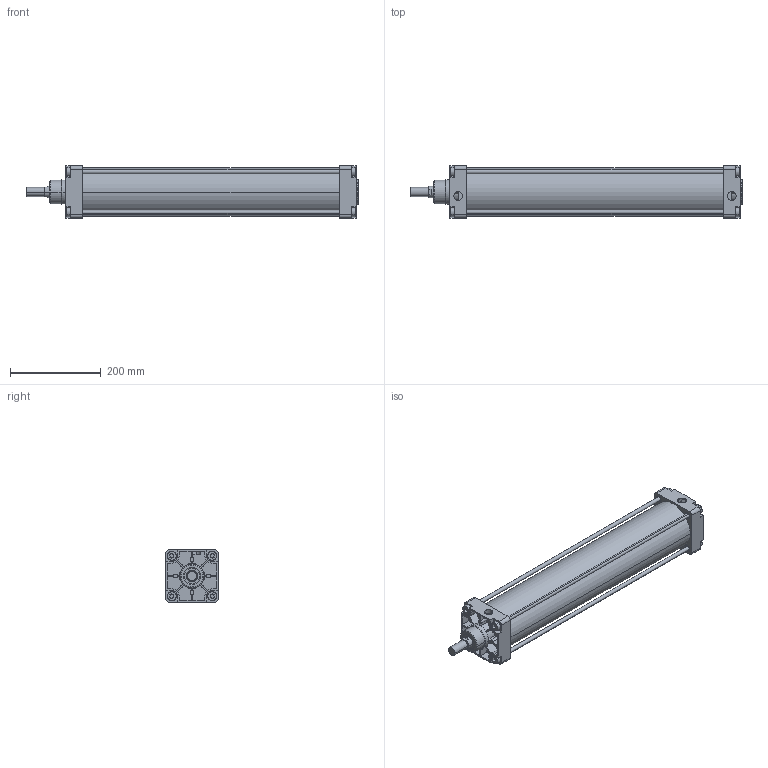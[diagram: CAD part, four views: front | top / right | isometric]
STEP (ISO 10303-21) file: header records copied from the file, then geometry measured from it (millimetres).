
FILE_DESCRIPTION(('CATIA V5 STEP Exchange'),'2;1');
FILE_NAME('D:\stp file for catalog\PNC\100\PNC 100-25-500.stp','2015-10-20T05:59:59+00:00',('none'),('none'),'Version 5-6 Release 2012','CATIA V5 STEP AP203','none');
FILE_SCHEMA(('CONFIG_CONTROL_DESIGN'));
Length unit declared in the file: millimetre
Products named in the file (1): PNC 100-25-500-00
Assembly tree (2 placements, depth 2):
  PNC 100-25-500-00
    #58
    #14164
Bounding box: 730.5 x 115 x 115 mm (x, y, z)
Volume: 2295264.3 mm3; surface area: 662416 mm2
Topology: 6 solids, 6 shells, 534 faces, 1388 edges, 914 vertices
Faces by surface type: plane 336, cylinder 166, torus 26, cone 6
Entity records: 14688 total; most frequent: ORIENTED_EDGE 2776, CARTESIAN_POINT 2595, DIRECTION 1902, EDGE_CURVE 1388, VECTOR 922, LINE 922, VERTEX_POINT 914, AXIS2_PLACEMENT_3D 719
